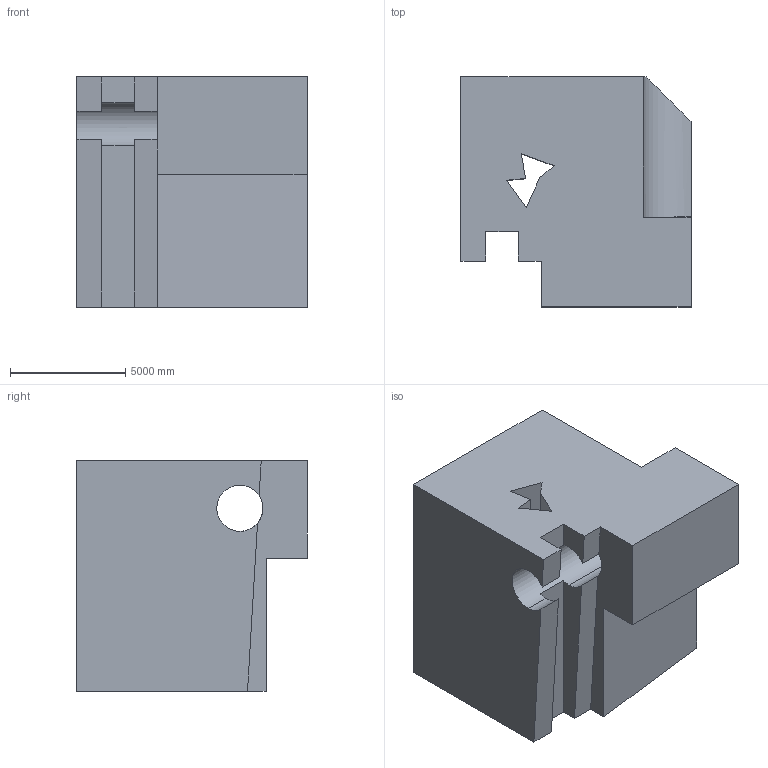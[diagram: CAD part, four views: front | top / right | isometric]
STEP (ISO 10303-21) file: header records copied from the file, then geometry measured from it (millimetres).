
FILE_DESCRIPTION (( 'STEP AP203' ), '1' );
FILE_NAME ('1832.STEP', '2022-08-19T13:19:55', ( 'user' ), ( '' ), 'SwSTEP 2.0', 'SolidWorks 2021', '' );
FILE_SCHEMA (( 'CONFIG_CONTROL_DESIGN' ));
Length unit declared in the file: centimetre
Products named in the file (1): 1832
Bounding box: 10000 x 10000 x 10000 mm (x, y, z)
Volume: 720447387074 mm3; surface area: 709423202.4 mm2
Topology: 1 solids, 1 shells, 39 faces, 114 edges, 76 vertices
Faces by surface type: plane 34, cylinder 5
Entity records: 1391 total; most frequent: CARTESIAN_POINT 256, ORIENTED_EDGE 228, DIRECTION 209, EDGE_CURVE 114, LINE 95, VECTOR 95, VERTEX_POINT 76, AXIS2_PLACEMENT_3D 57
